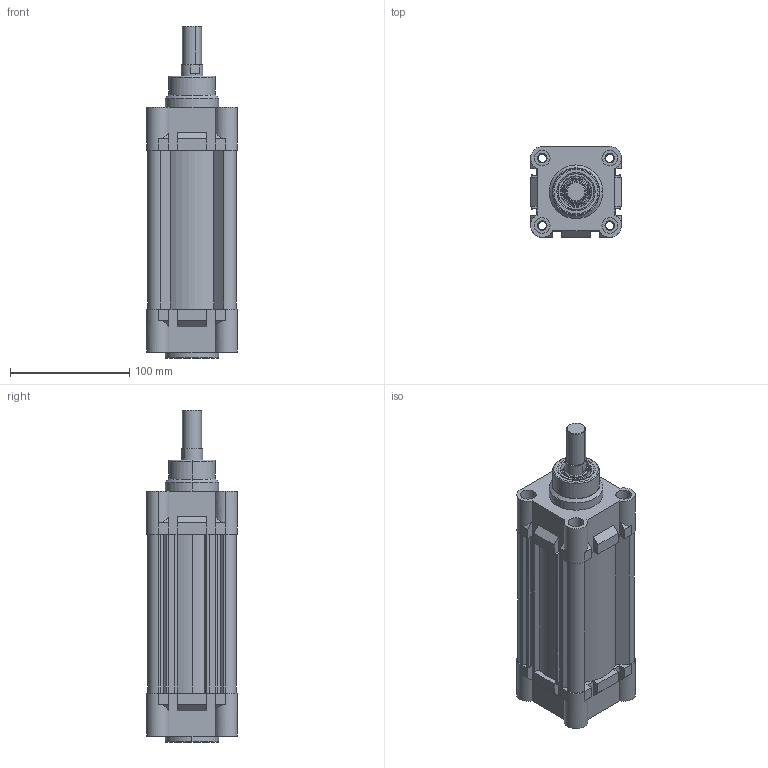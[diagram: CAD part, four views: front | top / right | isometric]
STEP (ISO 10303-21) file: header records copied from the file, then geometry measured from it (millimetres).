
FILE_DESCRIPTION (( 'STEP AP214' ), '1' );
FILE_NAME ('RIC_63_100_WEB.STEP', '2020-07-18T16:26:58', ( '' ), ( '' ), 'SwSTEP 2.0', 'SolidWorks 2018', '' );
FILE_SCHEMA (( 'AUTOMOTIVE_DESIGN' ));
Length unit declared in the file: millimetre
Products named in the file (7): ric63arkakapak; RIC_63_100_WEB; ric63onkapak; 63_BORU_WEB; ric63yastikkecesi; ric63bogazkecesi; 20_K_MIL_WEB
Assembly tree (7 placements, depth 2):
  RIC_63_100_WEB
    63_BORU_WEB
    ric63onkapak
    ric63arkakapak
    ric63bogazkecesi
    ric63yastikkecesi  x2
    20_K_MIL_WEB
Bounding box: 76 x 76 x 278 mm (x, y, z)
Volume: 585521.1 mm3; surface area: 179350.4 mm2
Topology: 7 solids, 7 shells, 709 faces, 1751 edges, 1102 vertices
Faces by surface type: plane 280, cylinder 220, torus 134, cone 56, bspline 19
Entity records: 21075 total; most frequent: CARTESIAN_POINT 4906, DIRECTION 3090, ORIENTED_EDGE 2910, EDGE_CURVE 1455, AXIS2_PLACEMENT_3D 1135, VERTEX_POINT 925, VECTOR 820, LINE 820
